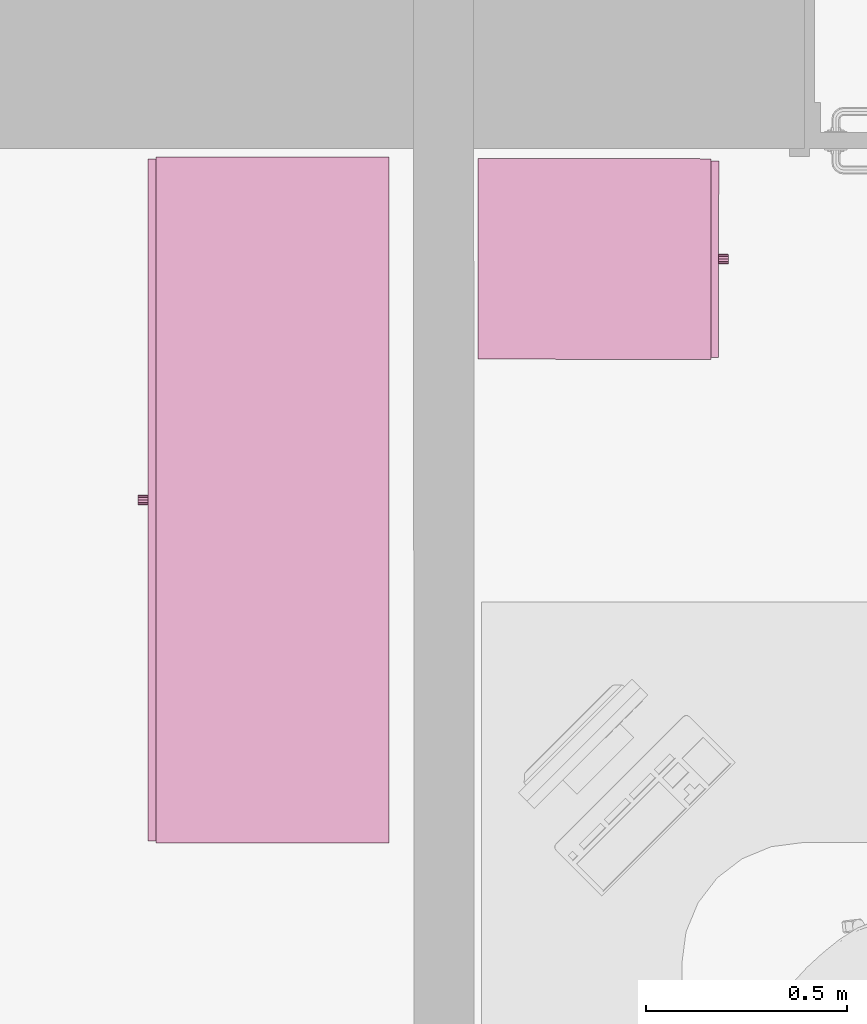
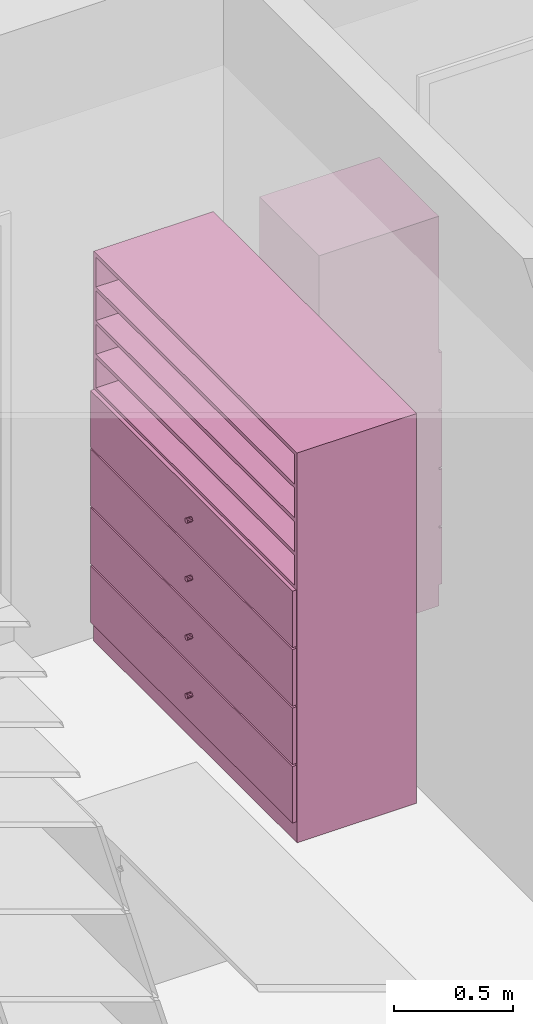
# One storey, part 142 of 194: 2 furnishings.
"""IFC2X3 building model written with IfcOpenShell, lengths in millimetres."""

from ifc_helpers import new_model, entity, si_unit, converted_unit, derived_unit, money_unit, direction, frame, origin_with_axes, place, context, subcontext, project, spatial, faceted_brep, source, transform, mapped, type_object, element, save


model = new_model("IFC2X3")

# Units and contexts
model_context = context("Model", 3, precision=1e-05, world=origin_with_axes(), true_north=direction((0.0, 1.0)))
body_context = subcontext(model_context, "Body", "Model", "MODEL_VIEW")
ifc_project = project(units=[si_unit("LENGTHUNIT", "METRE", prefix="MILLI"), si_unit("AREAUNIT", "SQUARE_METRE"), si_unit("VOLUMEUNIT", "CUBIC_METRE"), converted_unit("PLANEANGLEUNIT", "DEGREE", entity("IfcPlaneAngleMeasure", 0.0174532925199), si_unit("PLANEANGLEUNIT", "RADIAN"), dimensions=[0, 0, 0, 0, 0, 0, 0]), si_unit("SOLIDANGLEUNIT", "STERADIAN"), money_unit("EUR"), converted_unit("TIMEUNIT", "Year", entity("IfcTimeMeasure", 31556926.0), si_unit("TIMEUNIT", "SECOND"), dimensions=[0, 0, 1, 0, 0, 0, 0]), si_unit("MASSUNIT", "GRAM", prefix="KILO"), si_unit("THERMODYNAMICTEMPERATUREUNIT", "DEGREE_CELSIUS"), si_unit("LUMINOUSINTENSITYUNIT", "LUMEN"), si_unit("ENERGYUNIT", "JOULE", prefix="MEGA"), derived_unit("THERMALCONDUCTANCEUNIT", [(si_unit("POWERUNIT", "WATT"), 1), (si_unit("LENGTHUNIT", "METRE"), -1), (si_unit("THERMODYNAMICTEMPERATUREUNIT", "KELVIN"), -1)]), derived_unit("SPECIFICHEATCAPACITYUNIT", [(si_unit("ENERGYUNIT", "JOULE"), 1), (si_unit("MASSUNIT", "GRAM", prefix="KILO"), -1), (si_unit("THERMODYNAMICTEMPERATUREUNIT", "KELVIN"), -1)]), derived_unit("MASSDENSITYUNIT", [(si_unit("MASSUNIT", "GRAM", prefix="KILO"), 1), (si_unit("VOLUMEUNIT", "CUBIC_METRE"), -1)])], contexts=[model_context])

# Site, building, storey
site_placement = place(None, origin_with_axes())
site = spatial("IfcSite", under=ifc_project, at=site_placement, Name="Site", CompositionType="ELEMENT")
building_placement = place(site_placement, origin_with_axes())
building = spatial("IfcBuilding", under=site, at=building_placement, Name="Building", CompositionType="ELEMENT")
storey_placement = place(building_placement, frame((0.0, 0.0, 3000.0), z_axis=(0.0, 0.0, 1.0), x_axis=(1.0, 0.0, 0.0)))
storey = spatial("IfcBuildingStorey", under=building, at=storey_placement, Name="2 KORRUS", CompositionType="ELEMENT", Elevation=3000.0)

# Furnishings
furnishing_element_type_1 = type_object("IfcFurnishingElementType", Name="Model Element 35")
shared_shape_1 = source(origin_with_axes(), body_context, "Body", "Brep", [
    faceted_brep([(1709.22062814, 19.0, 0.0), (0.0, 19.0, 0.0), (0.0, 600.0, 0.0), (1709.22062814, 600.0, 0.0), (1709.22062814, 19.0, 100.0), (0.0, 19.0, 100.0), (0.0, 600.0, 100.0), (1709.22062814, 600.0, 100.0)], [[[0, 1, 2, 3]], [[1, 0, 4, 5]], [[2, 1, 5, 6]], [[3, 2, 6, 7]], [[0, 3, 7, 4]], [[5, 4, 7, 6]]]),
    faceted_brep([(19.0, 600.0, 119.0), (19.0, 581.0, 119.0), (19.0, 581.0, 1981.0), (19.0, 600.0, 1981.0), (1690.22062814, 600.0, 119.0), (1690.22062814, 581.0, 119.0), (1690.22062814, 581.0, 1981.0), (1690.22062814, 600.0, 1981.0)], [[[0, 1, 2, 3]], [[0, 4, 5, 1]], [[1, 5, 6, 2]], [[3, 2, 6, 7]], [[4, 0, 3, 7]], [[5, 4, 7, 6]]]),
    faceted_brep([(1709.22062814, 19.0, 100.0), (1690.22062814, 19.0, 100.0), (1690.22062814, 600.0, 100.0), (1709.22062814, 600.0, 100.0), (1709.22062814, 19.0, 2000.0), (1690.22062814, 19.0, 2000.0), (1690.22062814, 600.0, 2000.0), (1709.22062814, 600.0, 2000.0)], [[[0, 1, 2, 3]], [[1, 0, 4, 5]], [[2, 1, 5, 6]], [[3, 2, 6, 7]], [[0, 3, 7, 4]], [[5, 4, 7, 6]]]),
    faceted_brep([(19.0, 19.0, 100.0), (0.0, 19.0, 100.0), (0.0, 600.0, 100.0), (19.0, 600.0, 100.0), (19.0, 19.0, 2000.0), (0.0, 19.0, 2000.0), (0.0, 600.0, 2000.0), (19.0, 600.0, 2000.0)], [[[0, 1, 2, 3]], [[1, 0, 4, 5]], [[2, 1, 5, 6]], [[3, 2, 6, 7]], [[0, 3, 7, 4]], [[5, 4, 7, 6]]]),
    faceted_brep([(1690.22062814, 19.0, 100.0), (19.0, 19.0, 100.0), (19.0, 600.0, 100.0), (1690.22062814, 600.0, 100.0), (1690.22062814, 19.0, 119.0), (19.0, 19.0, 119.0), (19.0, 600.0, 119.0), (1690.22062814, 600.0, 119.0)], [[[0, 1, 2, 3]], [[1, 0, 4, 5]], [[2, 1, 5, 6]], [[3, 2, 6, 7]], [[0, 3, 7, 4]], [[5, 4, 7, 6]]]),
    faceted_brep([(1690.22062814, 19.0, 1981.0), (19.0, 19.0, 1981.0), (19.0, 600.0, 1981.0), (1690.22062814, 600.0, 1981.0), (1690.22062814, 19.0, 2000.0), (19.0, 19.0, 2000.0), (19.0, 600.0, 2000.0), (1690.22062814, 600.0, 2000.0)], [[[0, 1, 2, 3]], [[1, 0, 4, 5]], [[2, 1, 5, 6]], [[3, 2, 6, 7]], [[0, 3, 7, 4]], [[5, 4, 7, 6]]]),
    faceted_brep([(5.0, 19.0, 105.0), (1704.22062814, 19.0, 105.0), (1704.22062814, 0.0, 105.0), (5.0, 0.0, 105.0), (5.0, 19.0, 395.0), (1704.22062814, 19.0, 395.0), (1704.22062814, 0.0, 395.0), (5.0, 0.0, 395.0)], [[[0, 1, 2, 3]], [[0, 4, 5, 1]], [[1, 5, 6, 2]], [[3, 2, 6, 7]], [[4, 0, 3, 7]], [[5, 4, 7, 6]]]),
    faceted_brep([(865.002618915, 0.0, 244.0), (860.610314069, 0.0, 239.607695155), (854.610314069, 0.0, 238.0), (848.610314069, 0.0, 239.607695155), (844.218009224, 0.0, 244.0), (842.610314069, 0.0, 250.0), (844.218009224, 0.0, 256.0), (848.610314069, 0.0, 260.392304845), (854.610314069, 0.0, 262.0), (860.610314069, 0.0, 260.392304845), (865.002618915, 0.0, 256.0), (866.610314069, 0.0, 250.0), (865.002618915, -25.0, 244.0), (860.610314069, -25.0, 239.607695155), (854.610314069, -25.0, 238.0), (848.610314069, -25.0, 239.607695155), (844.218009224, -25.0, 244.0), (842.610314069, -25.0, 250.0), (844.218009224, -25.0, 256.0), (848.610314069, -25.0, 260.392304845), (854.610314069, -25.0, 262.0), (860.610314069, -25.0, 260.392304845), (865.002618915, -25.0, 256.0), (866.610314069, -25.0, 250.0)], [[[0, 1, 2, 3, 4, 5, 6, 7, 8, 9, 10, 11]], [[1, 0, 12, 13]], [[2, 1, 13, 14]], [[3, 2, 14, 15]], [[4, 3, 15, 16]], [[5, 4, 16, 17]], [[6, 5, 17, 18]], [[7, 6, 18, 19]], [[8, 7, 19, 20]], [[9, 8, 20, 21]], [[10, 9, 21, 22]], [[11, 10, 22, 23]], [[0, 11, 23, 12]], [[12, 23, 22, 21, 20, 19, 18, 17, 16, 15, 14, 13]]]),
    faceted_brep([(5.0, 19.0, 405.0), (1704.22062814, 19.0, 405.0), (1704.22062814, 0.0, 405.0), (5.0, 0.0, 405.0), (5.0, 19.0, 695.0), (1704.22062814, 19.0, 695.0), (1704.22062814, 0.0, 695.0), (5.0, 0.0, 695.0)], [[[0, 1, 2, 3]], [[0, 4, 5, 1]], [[1, 5, 6, 2]], [[3, 2, 6, 7]], [[4, 0, 3, 7]], [[5, 4, 7, 6]]]),
    faceted_brep([(865.002618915, 0.0, 544.0), (860.610314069, 0.0, 539.607695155), (854.610314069, 0.0, 538.0), (848.610314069, 0.0, 539.607695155), (844.218009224, 0.0, 544.0), (842.610314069, 0.0, 550.0), (844.218009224, 0.0, 556.0), (848.610314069, 0.0, 560.392304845), (854.610314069, 0.0, 562.0), (860.610314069, 0.0, 560.392304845), (865.002618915, 0.0, 556.0), (866.610314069, 0.0, 550.0), (865.002618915, -25.0, 544.0), (860.610314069, -25.0, 539.607695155), (854.610314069, -25.0, 538.0), (848.610314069, -25.0, 539.607695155), (844.218009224, -25.0, 544.0), (842.610314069, -25.0, 550.0), (844.218009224, -25.0, 556.0), (848.610314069, -25.0, 560.392304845), (854.610314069, -25.0, 562.0), (860.610314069, -25.0, 560.392304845), (865.002618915, -25.0, 556.0), (866.610314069, -25.0, 550.0)], [[[0, 1, 2, 3, 4, 5, 6, 7, 8, 9, 10, 11]], [[1, 0, 12, 13]], [[2, 1, 13, 14]], [[3, 2, 14, 15]], [[4, 3, 15, 16]], [[5, 4, 16, 17]], [[6, 5, 17, 18]], [[7, 6, 18, 19]], [[8, 7, 19, 20]], [[9, 8, 20, 21]], [[10, 9, 21, 22]], [[11, 10, 22, 23]], [[0, 11, 23, 12]], [[12, 23, 22, 21, 20, 19, 18, 17, 16, 15, 14, 13]]]),
    faceted_brep([(5.0, 19.0, 705.0), (1704.22062814, 19.0, 705.0), (1704.22062814, 0.0, 705.0), (5.0, 0.0, 705.0), (5.0, 19.0, 995.0), (1704.22062814, 19.0, 995.0), (1704.22062814, 0.0, 995.0), (5.0, 0.0, 995.0)], [[[0, 1, 2, 3]], [[0, 4, 5, 1]], [[1, 5, 6, 2]], [[3, 2, 6, 7]], [[4, 0, 3, 7]], [[5, 4, 7, 6]]]),
    faceted_brep([(865.002618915, 0.0, 844.0), (860.610314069, 0.0, 839.607695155), (854.610314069, 0.0, 838.0), (848.610314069, 0.0, 839.607695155), (844.218009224, 0.0, 844.0), (842.610314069, 0.0, 850.0), (844.218009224, 0.0, 856.0), (848.610314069, 0.0, 860.392304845), (854.610314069, 0.0, 862.0), (860.610314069, 0.0, 860.392304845), (865.002618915, 0.0, 856.0), (866.610314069, 0.0, 850.0), (865.002618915, -25.0, 844.0), (860.610314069, -25.0, 839.607695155), (854.610314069, -25.0, 838.0), (848.610314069, -25.0, 839.607695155), (844.218009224, -25.0, 844.0), (842.610314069, -25.0, 850.0), (844.218009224, -25.0, 856.0), (848.610314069, -25.0, 860.392304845), (854.610314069, -25.0, 862.0), (860.610314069, -25.0, 860.392304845), (865.002618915, -25.0, 856.0), (866.610314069, -25.0, 850.0)], [[[0, 1, 2, 3, 4, 5, 6, 7, 8, 9, 10, 11]], [[1, 0, 12, 13]], [[2, 1, 13, 14]], [[3, 2, 14, 15]], [[4, 3, 15, 16]], [[5, 4, 16, 17]], [[6, 5, 17, 18]], [[7, 6, 18, 19]], [[8, 7, 19, 20]], [[9, 8, 20, 21]], [[10, 9, 21, 22]], [[11, 10, 22, 23]], [[0, 11, 23, 12]], [[12, 23, 22, 21, 20, 19, 18, 17, 16, 15, 14, 13]]]),
    faceted_brep([(5.0, 19.0, 1005.0), (1704.22062814, 19.0, 1005.0), (1704.22062814, 0.0, 1005.0), (5.0, 0.0, 1005.0), (5.0, 19.0, 1295.0), (1704.22062814, 19.0, 1295.0), (1704.22062814, 0.0, 1295.0), (5.0, 0.0, 1295.0)], [[[0, 1, 2, 3]], [[0, 4, 5, 1]], [[1, 5, 6, 2]], [[3, 2, 6, 7]], [[4, 0, 3, 7]], [[5, 4, 7, 6]]]),
    faceted_brep([(865.002618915, 0.0, 1144.0), (860.610314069, 0.0, 1139.60769515), (854.610314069, 0.0, 1138.0), (848.610314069, 0.0, 1139.60769515), (844.218009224, 0.0, 1144.0), (842.610314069, 0.0, 1150.0), (844.218009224, 0.0, 1156.0), (848.610314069, 0.0, 1160.39230485), (854.610314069, 0.0, 1162.0), (860.610314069, 0.0, 1160.39230485), (865.002618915, 0.0, 1156.0), (866.610314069, 0.0, 1150.0), (865.002618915, -25.0, 1144.0), (860.610314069, -25.0, 1139.60769515), (854.610314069, -25.0, 1138.0), (848.610314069, -25.0, 1139.60769515), (844.218009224, -25.0, 1144.0), (842.610314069, -25.0, 1150.0), (844.218009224, -25.0, 1156.0), (848.610314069, -25.0, 1160.39230485), (854.610314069, -25.0, 1162.0), (860.610314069, -25.0, 1160.39230485), (865.002618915, -25.0, 1156.0), (866.610314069, -25.0, 1150.0)], [[[0, 1, 2, 3, 4, 5, 6, 7, 8, 9, 10, 11]], [[1, 0, 12, 13]], [[2, 1, 13, 14]], [[3, 2, 14, 15]], [[4, 3, 15, 16]], [[5, 4, 16, 17]], [[6, 5, 17, 18]], [[7, 6, 18, 19]], [[8, 7, 19, 20]], [[9, 8, 20, 21]], [[10, 9, 21, 22]], [[11, 10, 22, 23]], [[0, 11, 23, 12]], [[12, 23, 22, 21, 20, 19, 18, 17, 16, 15, 14, 13]]]),
    faceted_brep([(19.0, 19.0, 390.5), (1690.22062814, 19.0, 390.5), (1690.22062814, 19.0, 409.5), (19.0, 19.0, 409.5), (19.0, 581.0, 390.5), (1690.22062814, 581.0, 390.5), (1690.22062814, 581.0, 409.5), (19.0, 581.0, 409.5)], [[[0, 1, 2, 3]], [[0, 4, 5, 1]], [[1, 5, 6, 2]], [[3, 2, 6, 7]], [[4, 0, 3, 7]], [[5, 4, 7, 6]]]),
    faceted_brep([(19.0, 19.0, 690.5), (1690.22062814, 19.0, 690.5), (1690.22062814, 19.0, 709.5), (19.0, 19.0, 709.5), (19.0, 581.0, 690.5), (1690.22062814, 581.0, 690.5), (1690.22062814, 581.0, 709.5), (19.0, 581.0, 709.5)], [[[0, 1, 2, 3]], [[0, 4, 5, 1]], [[1, 5, 6, 2]], [[3, 2, 6, 7]], [[4, 0, 3, 7]], [[5, 4, 7, 6]]]),
    faceted_brep([(19.0, 19.0, 990.5), (1690.22062814, 19.0, 990.5), (1690.22062814, 19.0, 1009.5), (19.0, 19.0, 1009.5), (19.0, 581.0, 990.5), (1690.22062814, 581.0, 990.5), (1690.22062814, 581.0, 1009.5), (19.0, 581.0, 1009.5)], [[[0, 1, 2, 3]], [[0, 4, 5, 1]], [[1, 5, 6, 2]], [[3, 2, 6, 7]], [[4, 0, 3, 7]], [[5, 4, 7, 6]]]),
    faceted_brep([(19.0, 19.0, 1290.5), (1690.22062814, 19.0, 1290.5), (1690.22062814, 19.0, 1309.5), (19.0, 19.0, 1309.5), (19.0, 581.0, 1290.5), (1690.22062814, 581.0, 1290.5), (1690.22062814, 581.0, 1309.5), (19.0, 581.0, 1309.5)], [[[0, 1, 2, 3]], [[0, 4, 5, 1]], [[1, 5, 6, 2]], [[3, 2, 6, 7]], [[4, 0, 3, 7]], [[5, 4, 7, 6]]]),
    faceted_brep([(1690.22062814, 19.0, 1463.125), (19.0, 19.0, 1463.125), (19.0, 581.0, 1463.125), (1690.22062814, 581.0, 1463.125), (1690.22062814, 19.0, 1482.125), (19.0, 19.0, 1482.125), (19.0, 581.0, 1482.125), (1690.22062814, 581.0, 1482.125)], [[[0, 1, 2, 3]], [[1, 0, 4, 5]], [[2, 1, 5, 6]], [[3, 2, 6, 7]], [[0, 3, 7, 4]], [[5, 4, 7, 6]]]),
    faceted_brep([(1690.22062814, 19.0, 1635.75), (19.0, 19.0, 1635.75), (19.0, 581.0, 1635.75), (1690.22062814, 581.0, 1635.75), (1690.22062814, 19.0, 1654.75), (19.0, 19.0, 1654.75), (19.0, 581.0, 1654.75), (1690.22062814, 581.0, 1654.75)], [[[0, 1, 2, 3]], [[1, 0, 4, 5]], [[2, 1, 5, 6]], [[3, 2, 6, 7]], [[0, 3, 7, 4]], [[5, 4, 7, 6]]]),
    faceted_brep([(1690.22062814, 19.0, 1808.375), (19.0, 19.0, 1808.375), (19.0, 581.0, 1808.375), (1690.22062814, 581.0, 1808.375), (1690.22062814, 19.0, 1827.375), (19.0, 19.0, 1827.375), (19.0, 581.0, 1827.375), (1690.22062814, 581.0, 1827.375)], [[[0, 1, 2, 3]], [[1, 0, 4, 5]], [[2, 1, 5, 6]], [[3, 2, 6, 7]], [[0, 3, 7, 4]], [[5, 4, 7, 6]]]),
])
furnishing_1_placement = place(storey_placement, frame((24339.5376748, 65189.056639, 0.0), z_axis=(0.0, 0.0, 1.0), x_axis=(0.0, -1.0, 0.0)))
element("IfcFurnishingElement", 1, at=furnishing_1_placement, inside=storey, type_object=furnishing_element_type_1, Name="FU - 001", context=body_context, shape_type="MappedRepresentation", body=[
    mapped(shared_shape_1, transform((0.0, 0.0, 0.0))),
])
furnishing_element_type_2 = type_object("IfcFurnishingElementType", Name="Model Element 34")
shared_shape_2 = source(origin_with_axes(), body_context, "Body", "Brep", [
    faceted_brep([(500.0, 19.0, 0.0), (0.0, 19.0, 0.0), (0.0, 600.234166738, 0.0), (500.0, 600.234166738, 0.0), (500.0, 19.0, 100.0), (0.0, 19.0, 100.0), (0.0, 600.234166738, 100.0), (500.0, 600.234166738, 100.0)], [[[0, 1, 2, 3]], [[1, 0, 4, 5]], [[2, 1, 5, 6]], [[3, 2, 6, 7]], [[0, 3, 7, 4]], [[5, 4, 7, 6]]]),
    faceted_brep([(19.0, 600.234166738, 119.0), (19.0, 581.234166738, 119.0), (19.0, 581.234166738, 1981.0), (19.0, 600.234166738, 1981.0), (481.0, 600.234166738, 119.0), (481.0, 581.234166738, 119.0), (481.0, 581.234166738, 1981.0), (481.0, 600.234166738, 1981.0)], [[[0, 1, 2, 3]], [[0, 4, 5, 1]], [[1, 5, 6, 2]], [[3, 2, 6, 7]], [[4, 0, 3, 7]], [[5, 4, 7, 6]]]),
    faceted_brep([(500.0, 19.0, 100.0), (481.0, 19.0, 100.0), (481.0, 600.234166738, 100.0), (500.0, 600.234166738, 100.0), (500.0, 19.0, 2000.0), (481.0, 19.0, 2000.0), (481.0, 600.234166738, 2000.0), (500.0, 600.234166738, 2000.0)], [[[0, 1, 2, 3]], [[1, 0, 4, 5]], [[2, 1, 5, 6]], [[3, 2, 6, 7]], [[0, 3, 7, 4]], [[5, 4, 7, 6]]]),
    faceted_brep([(19.0, 19.0, 100.0), (0.0, 19.0, 100.0), (0.0, 600.234166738, 100.0), (19.0, 600.234166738, 100.0), (19.0, 19.0, 2000.0), (0.0, 19.0, 2000.0), (0.0, 600.234166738, 2000.0), (19.0, 600.234166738, 2000.0)], [[[0, 1, 2, 3]], [[1, 0, 4, 5]], [[2, 1, 5, 6]], [[3, 2, 6, 7]], [[0, 3, 7, 4]], [[5, 4, 7, 6]]]),
    faceted_brep([(481.0, 19.0, 100.0), (19.0, 19.0, 100.0), (19.0, 600.234166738, 100.0), (481.0, 600.234166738, 100.0), (481.0, 19.0, 119.0), (19.0, 19.0, 119.0), (19.0, 600.234166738, 119.0), (481.0, 600.234166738, 119.0)], [[[0, 1, 2, 3]], [[1, 0, 4, 5]], [[2, 1, 5, 6]], [[3, 2, 6, 7]], [[0, 3, 7, 4]], [[5, 4, 7, 6]]]),
    faceted_brep([(481.0, 19.0, 1981.0), (19.0, 19.0, 1981.0), (19.0, 600.234166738, 1981.0), (481.0, 600.234166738, 1981.0), (481.0, 19.0, 2000.0), (19.0, 19.0, 2000.0), (19.0, 600.234166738, 2000.0), (481.0, 600.234166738, 2000.0)], [[[0, 1, 2, 3]], [[1, 0, 4, 5]], [[2, 1, 5, 6]], [[3, 2, 6, 7]], [[0, 3, 7, 4]], [[5, 4, 7, 6]]]),
    faceted_brep([(5.0, 19.0, 105.0), (495.0, 19.0, 105.0), (495.0, 0.0, 105.0), (5.0, 0.0, 105.0), (5.0, 19.0, 395.0), (495.0, 19.0, 395.0), (495.0, 0.0, 395.0), (5.0, 0.0, 395.0)], [[[0, 1, 2, 3]], [[0, 4, 5, 1]], [[1, 5, 6, 2]], [[3, 2, 6, 7]], [[4, 0, 3, 7]], [[5, 4, 7, 6]]]),
    faceted_brep([(260.392304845, 0.0, 244.0), (256.0, 0.0, 239.607695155), (250.0, 0.0, 238.0), (244.0, 0.0, 239.607695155), (239.607695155, 0.0, 244.0), (238.0, 0.0, 250.0), (239.607695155, 0.0, 256.0), (244.0, 0.0, 260.392304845), (250.0, 0.0, 262.0), (256.0, 0.0, 260.392304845), (260.392304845, 0.0, 256.0), (262.0, 0.0, 250.0), (260.392304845, -25.0, 244.0), (256.0, -25.0, 239.607695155), (250.0, -25.0, 238.0), (244.0, -25.0, 239.607695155), (239.607695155, -25.0, 244.0), (238.0, -25.0, 250.0), (239.607695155, -25.0, 256.0), (244.0, -25.0, 260.392304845), (250.0, -25.0, 262.0), (256.0, -25.0, 260.392304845), (260.392304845, -25.0, 256.0), (262.0, -25.0, 250.0)], [[[0, 1, 2, 3, 4, 5, 6, 7, 8, 9, 10, 11]], [[1, 0, 12, 13]], [[2, 1, 13, 14]], [[3, 2, 14, 15]], [[4, 3, 15, 16]], [[5, 4, 16, 17]], [[6, 5, 17, 18]], [[7, 6, 18, 19]], [[8, 7, 19, 20]], [[9, 8, 20, 21]], [[10, 9, 21, 22]], [[11, 10, 22, 23]], [[0, 11, 23, 12]], [[12, 23, 22, 21, 20, 19, 18, 17, 16, 15, 14, 13]]]),
    faceted_brep([(5.0, 19.0, 405.0), (495.0, 19.0, 405.0), (495.0, 0.0, 405.0), (5.0, 0.0, 405.0), (5.0, 19.0, 695.0), (495.0, 19.0, 695.0), (495.0, 0.0, 695.0), (5.0, 0.0, 695.0)], [[[0, 1, 2, 3]], [[0, 4, 5, 1]], [[1, 5, 6, 2]], [[3, 2, 6, 7]], [[4, 0, 3, 7]], [[5, 4, 7, 6]]]),
    faceted_brep([(260.392304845, 0.0, 544.0), (256.0, 0.0, 539.607695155), (250.0, 0.0, 538.0), (244.0, 0.0, 539.607695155), (239.607695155, 0.0, 544.0), (238.0, 0.0, 550.0), (239.607695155, 0.0, 556.0), (244.0, 0.0, 560.392304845), (250.0, 0.0, 562.0), (256.0, 0.0, 560.392304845), (260.392304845, 0.0, 556.0), (262.0, 0.0, 550.0), (260.392304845, -25.0, 544.0), (256.0, -25.0, 539.607695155), (250.0, -25.0, 538.0), (244.0, -25.0, 539.607695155), (239.607695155, -25.0, 544.0), (238.0, -25.0, 550.0), (239.607695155, -25.0, 556.0), (244.0, -25.0, 560.392304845), (250.0, -25.0, 562.0), (256.0, -25.0, 560.392304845), (260.392304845, -25.0, 556.0), (262.0, -25.0, 550.0)], [[[0, 1, 2, 3, 4, 5, 6, 7, 8, 9, 10, 11]], [[1, 0, 12, 13]], [[2, 1, 13, 14]], [[3, 2, 14, 15]], [[4, 3, 15, 16]], [[5, 4, 16, 17]], [[6, 5, 17, 18]], [[7, 6, 18, 19]], [[8, 7, 19, 20]], [[9, 8, 20, 21]], [[10, 9, 21, 22]], [[11, 10, 22, 23]], [[0, 11, 23, 12]], [[12, 23, 22, 21, 20, 19, 18, 17, 16, 15, 14, 13]]]),
    faceted_brep([(5.0, 19.0, 705.0), (495.0, 19.0, 705.0), (495.0, 0.0, 705.0), (5.0, 0.0, 705.0), (5.0, 19.0, 995.0), (495.0, 19.0, 995.0), (495.0, 0.0, 995.0), (5.0, 0.0, 995.0)], [[[0, 1, 2, 3]], [[0, 4, 5, 1]], [[1, 5, 6, 2]], [[3, 2, 6, 7]], [[4, 0, 3, 7]], [[5, 4, 7, 6]]]),
    faceted_brep([(260.392304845, 0.0, 844.0), (256.0, 0.0, 839.607695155), (250.0, 0.0, 838.0), (244.0, 0.0, 839.607695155), (239.607695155, 0.0, 844.0), (238.0, 0.0, 850.0), (239.607695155, 0.0, 856.0), (244.0, 0.0, 860.392304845), (250.0, 0.0, 862.0), (256.0, 0.0, 860.392304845), (260.392304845, 0.0, 856.0), (262.0, 0.0, 850.0), (260.392304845, -25.0, 844.0), (256.0, -25.0, 839.607695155), (250.0, -25.0, 838.0), (244.0, -25.0, 839.607695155), (239.607695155, -25.0, 844.0), (238.0, -25.0, 850.0), (239.607695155, -25.0, 856.0), (244.0, -25.0, 860.392304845), (250.0, -25.0, 862.0), (256.0, -25.0, 860.392304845), (260.392304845, -25.0, 856.0), (262.0, -25.0, 850.0)], [[[0, 1, 2, 3, 4, 5, 6, 7, 8, 9, 10, 11]], [[1, 0, 12, 13]], [[2, 1, 13, 14]], [[3, 2, 14, 15]], [[4, 3, 15, 16]], [[5, 4, 16, 17]], [[6, 5, 17, 18]], [[7, 6, 18, 19]], [[8, 7, 19, 20]], [[9, 8, 20, 21]], [[10, 9, 21, 22]], [[11, 10, 22, 23]], [[0, 11, 23, 12]], [[12, 23, 22, 21, 20, 19, 18, 17, 16, 15, 14, 13]]]),
    faceted_brep([(5.0, 19.0, 1005.0), (495.0, 19.0, 1005.0), (495.0, 0.0, 1005.0), (5.0, 0.0, 1005.0), (5.0, 19.0, 1295.0), (495.0, 19.0, 1295.0), (495.0, 0.0, 1295.0), (5.0, 0.0, 1295.0)], [[[0, 1, 2, 3]], [[0, 4, 5, 1]], [[1, 5, 6, 2]], [[3, 2, 6, 7]], [[4, 0, 3, 7]], [[5, 4, 7, 6]]]),
    faceted_brep([(260.392304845, 0.0, 1144.0), (256.0, 0.0, 1139.60769515), (250.0, 0.0, 1138.0), (244.0, 0.0, 1139.60769515), (239.607695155, 0.0, 1144.0), (238.0, 0.0, 1150.0), (239.607695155, 0.0, 1156.0), (244.0, 0.0, 1160.39230485), (250.0, 0.0, 1162.0), (256.0, 0.0, 1160.39230485), (260.392304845, 0.0, 1156.0), (262.0, 0.0, 1150.0), (260.392304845, -25.0, 1144.0), (256.0, -25.0, 1139.60769515), (250.0, -25.0, 1138.0), (244.0, -25.0, 1139.60769515), (239.607695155, -25.0, 1144.0), (238.0, -25.0, 1150.0), (239.607695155, -25.0, 1156.0), (244.0, -25.0, 1160.39230485), (250.0, -25.0, 1162.0), (256.0, -25.0, 1160.39230485), (260.392304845, -25.0, 1156.0), (262.0, -25.0, 1150.0)], [[[0, 1, 2, 3, 4, 5, 6, 7, 8, 9, 10, 11]], [[1, 0, 12, 13]], [[2, 1, 13, 14]], [[3, 2, 14, 15]], [[4, 3, 15, 16]], [[5, 4, 16, 17]], [[6, 5, 17, 18]], [[7, 6, 18, 19]], [[8, 7, 19, 20]], [[9, 8, 20, 21]], [[10, 9, 21, 22]], [[11, 10, 22, 23]], [[0, 11, 23, 12]], [[12, 23, 22, 21, 20, 19, 18, 17, 16, 15, 14, 13]]]),
    faceted_brep([(19.0, 19.0, 390.5), (481.0, 19.0, 390.5), (481.0, 19.0, 409.5), (19.0, 19.0, 409.5), (19.0, 581.234166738, 390.5), (481.0, 581.234166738, 390.5), (481.0, 581.234166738, 409.5), (19.0, 581.234166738, 409.5)], [[[0, 1, 2, 3]], [[0, 4, 5, 1]], [[1, 5, 6, 2]], [[3, 2, 6, 7]], [[4, 0, 3, 7]], [[5, 4, 7, 6]]]),
    faceted_brep([(19.0, 19.0, 690.5), (481.0, 19.0, 690.5), (481.0, 19.0, 709.5), (19.0, 19.0, 709.5), (19.0, 581.234166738, 690.5), (481.0, 581.234166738, 690.5), (481.0, 581.234166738, 709.5), (19.0, 581.234166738, 709.5)], [[[0, 1, 2, 3]], [[0, 4, 5, 1]], [[1, 5, 6, 2]], [[3, 2, 6, 7]], [[4, 0, 3, 7]], [[5, 4, 7, 6]]]),
    faceted_brep([(19.0, 19.0, 990.5), (481.0, 19.0, 990.5), (481.0, 19.0, 1009.5), (19.0, 19.0, 1009.5), (19.0, 581.234166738, 990.5), (481.0, 581.234166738, 990.5), (481.0, 581.234166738, 1009.5), (19.0, 581.234166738, 1009.5)], [[[0, 1, 2, 3]], [[0, 4, 5, 1]], [[1, 5, 6, 2]], [[3, 2, 6, 7]], [[4, 0, 3, 7]], [[5, 4, 7, 6]]]),
    faceted_brep([(19.0, 19.0, 1290.5), (481.0, 19.0, 1290.5), (481.0, 19.0, 1309.5), (19.0, 19.0, 1309.5), (19.0, 581.234166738, 1290.5), (481.0, 581.234166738, 1290.5), (481.0, 581.234166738, 1309.5), (19.0, 581.234166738, 1309.5)], [[[0, 1, 2, 3]], [[0, 4, 5, 1]], [[1, 5, 6, 2]], [[3, 2, 6, 7]], [[4, 0, 3, 7]], [[5, 4, 7, 6]]]),
    faceted_brep([(481.0, 19.0, 1463.125), (19.0, 19.0, 1463.125), (19.0, 581.234166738, 1463.125), (481.0, 581.234166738, 1463.125), (481.0, 19.0, 1482.125), (19.0, 19.0, 1482.125), (19.0, 581.234166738, 1482.125), (481.0, 581.234166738, 1482.125)], [[[0, 1, 2, 3]], [[1, 0, 4, 5]], [[2, 1, 5, 6]], [[3, 2, 6, 7]], [[0, 3, 7, 4]], [[5, 4, 7, 6]]]),
    faceted_brep([(481.0, 19.0, 1635.75), (19.0, 19.0, 1635.75), (19.0, 581.234166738, 1635.75), (481.0, 581.234166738, 1635.75), (481.0, 19.0, 1654.75), (19.0, 19.0, 1654.75), (19.0, 581.234166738, 1654.75), (481.0, 581.234166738, 1654.75)], [[[0, 1, 2, 3]], [[1, 0, 4, 5]], [[2, 1, 5, 6]], [[3, 2, 6, 7]], [[0, 3, 7, 4]], [[5, 4, 7, 6]]]),
    faceted_brep([(481.0, 19.0, 1808.375), (19.0, 19.0, 1808.375), (19.0, 581.234166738, 1808.375), (481.0, 581.234166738, 1808.375), (481.0, 19.0, 1827.375), (19.0, 19.0, 1827.375), (19.0, 581.234166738, 1827.375), (481.0, 581.234166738, 1827.375)], [[[0, 1, 2, 3]], [[1, 0, 4, 5]], [[2, 1, 5, 6]], [[3, 2, 6, 7]], [[0, 3, 7, 4]], [[5, 4, 7, 6]]]),
])
furnishing_2_placement = place(storey_placement, frame((25761.5510673, 64685.0206812, 0.0), z_axis=(0.0, 0.0, 1.0), x_axis=(0.00064265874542, 0.999999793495, 0.0)))
element("IfcFurnishingElement", 2, at=furnishing_2_placement, inside=storey, type_object=furnishing_element_type_2, Name="FU - 001", context=body_context, shape_type="MappedRepresentation", body=[
    mapped(shared_shape_2, transform((0.0, 0.0, 0.0))),
])

save(model, "model.ifc")
